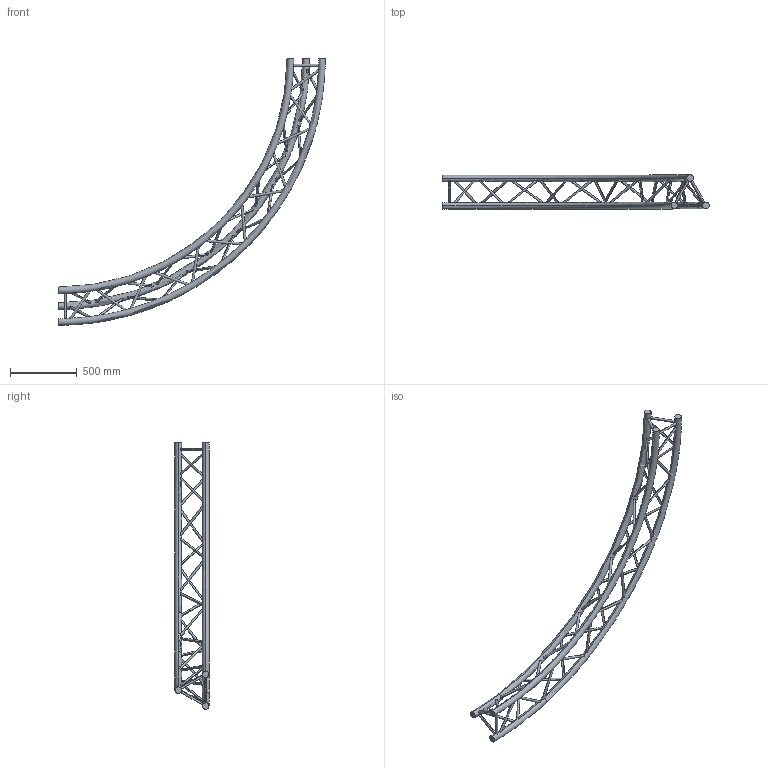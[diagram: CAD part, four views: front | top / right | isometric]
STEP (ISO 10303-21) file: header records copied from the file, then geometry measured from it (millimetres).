
FILE_DESCRIPTION (( 'STEP AP203' ), '1' );
FILE_NAME ('SXC29400PH.STEP', '2009-10-21T08:23:54', ( 'CEDIA' ), ( 'CEDIA INDUSTRIE' ), 'SwSTEP 2.0', 'SolidWorks 2009', '' );
FILE_SCHEMA (( 'CONFIG_CONTROL_DESIGN' ));
Length unit declared in the file: millimetre
Products named in the file (1): SXC29400PH
Bounding box: 2000 x 255.25 x 2000 mm (x, y, z)
Volume: 19293248.9 mm3; surface area: 1893993.7 mm2
Topology: 1 solids, 1 shells, 96 faces, 298 edges, 180 vertices
Faces by surface type: cylinder 84, torus 6, plane 6
Entity records: 10966 total; most frequent: CARTESIAN_POINT 8420, ORIENTED_EDGE 596, DIRECTION 370, EDGE_CURVE 298, VERTEX_POINT 180, B_SPLINE_CURVE_WITH_KNOTS 168, EDGE_LOOP 152, AXIS2_PLACEMENT_3D 143
